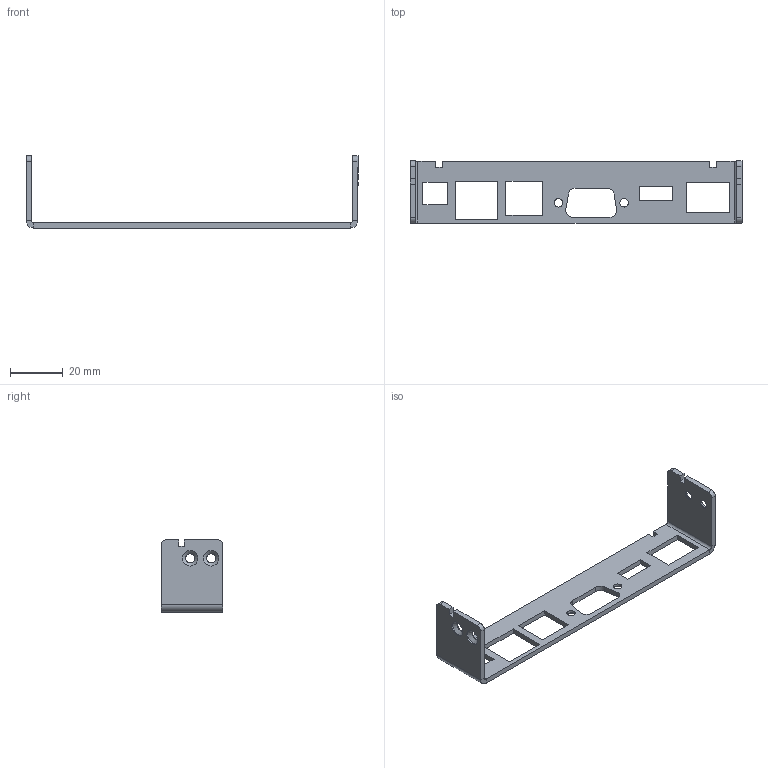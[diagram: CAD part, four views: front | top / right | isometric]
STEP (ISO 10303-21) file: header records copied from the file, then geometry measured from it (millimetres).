
FILE_DESCRIPTION(/* description */ ('','CAx-IF Rec.Pracs.---Representation and Presentation of Product Manufacturing Information (PMI)---4.0---2014-10-13'),/* implementation_level */ '2;1');
FILE_NAME(/* name */ 'G:\Alle CAD Daten\CAMTEC_2020_Pack and Go\PSU CPS-i3000 - CPS-i2000\2051078001.stp',/* time_stamp */ '2020-09-20T22:29:43+02:00',/* author */ ('rryba'),/* organization */ (''),/* preprocessor_version */ 'ST-DEVELOPER v18.1',/* originating_system */ 'Autodesk Inventor 2021',/* authorisation */ '');
FILE_SCHEMA (('INTEGRATED_CNC_SCHEMA','AP242_MANAGED_MODEL_BASED_3D_ENGINEERING_MIM_LF { 1 0 10303 442 1 1 4 }'));
Length unit declared in the file: millimetre
Products named in the file (1): 2051078001
Bounding box: 126.4 x 23.6 x 27.5 mm (x, y, z)
Volume: 6111.7 mm3; surface area: 7786.2 mm2
Topology: 1 solids, 1 shells, 88 faces, 281 edges, 246 vertices
Faces by surface type: plane 60, cylinder 24, cone 4
Full cylindrical faces by diameter (mm): 3.2 x2, 3.4 x4, 5.8 x2, 5.9 x4
Entity records: 3010 total; most frequent: CARTESIAN_POINT 567, DIRECTION 470, ORIENTED_EDGE 456, EDGE_CURVE 228, LINE 180, VECTOR 180, AXIS2_PLACEMENT_3D 145, VERTEX_POINT 144
